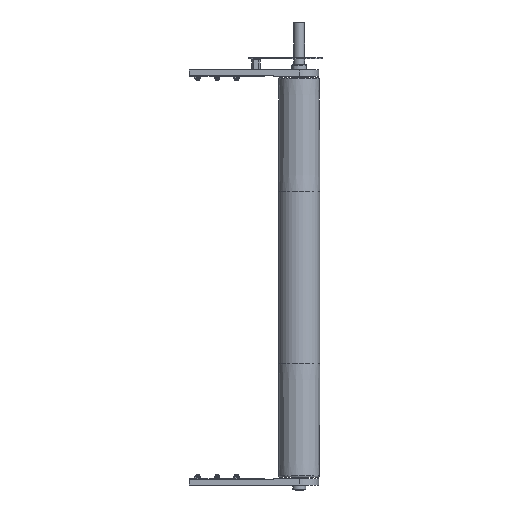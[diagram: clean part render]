
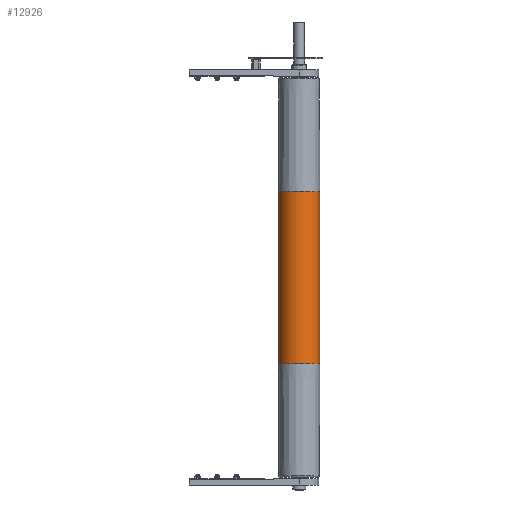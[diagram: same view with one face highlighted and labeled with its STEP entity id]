
A CAD part, front view. The second image highlights one B-rep face of the part: STEP entity #12926.
In plain terms, the highlighted cylindrical face has radius 47.5 mm (diameter 95 mm), a partial arc.
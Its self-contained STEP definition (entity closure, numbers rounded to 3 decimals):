
#3099 = VERTEX_POINT ( 'NONE', #6659 ) ;
#3102 = VERTEX_POINT ( 'NONE', #6719 ) ;
#3103 = VERTEX_POINT ( 'NONE', #6671 ) ;
#3125 = VERTEX_POINT ( 'NONE', #6604 ) ;
#5238 = DIRECTION ( 'NONE',  ( 1., 0., 0. ) ) ;
#5239 = DIRECTION ( 'NONE',  ( 0., 0., 1. ) ) ;
#5240 = CARTESIAN_POINT ( 'NONE',  ( 0., 0., -200. ) ) ;
#5245 = DIRECTION ( 'NONE',  ( 1., 0., 0. ) ) ;
#5246 = DIRECTION ( 'NONE',  ( 0., 0., 1. ) ) ;
#5247 = CARTESIAN_POINT ( 'NONE',  ( 0., 0., 200. ) ) ;
#5264 = DIRECTION ( 'NONE',  ( 0., 0., -1. ) ) ;
#5266 = CARTESIAN_POINT ( 'NONE',  ( -47.5, 0., 460. ) ) ;
#5273 = CARTESIAN_POINT ( 'NONE',  ( 47.5, 0., 460. ) ) ;
#5275 = DIRECTION ( 'NONE',  ( 0., 0., -1. ) ) ;
#6604 = CARTESIAN_POINT ( 'NONE',  ( 47.5, 0., -200. ) ) ;
#6659 = CARTESIAN_POINT ( 'NONE',  ( 47.5, 0., 200. ) ) ;
#6671 = CARTESIAN_POINT ( 'NONE',  ( -47.5, 0., -200. ) ) ;
#6719 = CARTESIAN_POINT ( 'NONE',  ( -47.5, 0., 200. ) ) ;
#8188 = EDGE_CURVE ( 'NONE', #3099, #3125, #19040, .T. ) ;
#8189 = EDGE_CURVE ( 'NONE', #3102, #3103, #19037, .T. ) ;
#8194 = EDGE_CURVE ( 'NONE', #3102, #3099, #19028, .T. ) ;
#8195 = EDGE_CURVE ( 'NONE', #3103, #3125, #19027, .T. ) ;
#8859 = CYLINDRICAL_SURFACE ( 'NONE', #17836, 47.5 ) ;
#8863 = FACE_OUTER_BOUND ( 'NONE', #15414, .T. ) ;
#10394 = CARTESIAN_POINT ( 'NONE',  ( 0., 0., 460. ) ) ;
#10398 = DIRECTION ( 'NONE',  ( 0., 0., -1. ) ) ;
#10401 = DIRECTION ( 'NONE',  ( -1., 0., 0. ) ) ;
#12926 = ADVANCED_FACE ( 'NONE', ( #8863 ), #8859, .T. ) ;
#14161 = ORIENTED_EDGE ( 'NONE', *, *, #8188, .F. ) ;
#14162 = ORIENTED_EDGE ( 'NONE', *, *, #8194, .F. ) ;
#14163 = ORIENTED_EDGE ( 'NONE', *, *, #8189, .T. ) ;
#14164 = ORIENTED_EDGE ( 'NONE', *, *, #8195, .T. ) ;
#15414 = EDGE_LOOP ( 'NONE', ( #14161, #14162, #14163, #14164 ) ) ;
#17374 = AXIS2_PLACEMENT_3D ( 'NONE', #5247, #5246, #5245 ) ;
#17375 = AXIS2_PLACEMENT_3D ( 'NONE', #5240, #5239, #5238 ) ;
#17836 = AXIS2_PLACEMENT_3D ( 'NONE', #10394, #10398, #10401 ) ;
#19027 = CIRCLE ( 'NONE', #17375, 47.5 ) ;
#19028 = CIRCLE ( 'NONE', #17374, 47.5 ) ;
#19034 = VECTOR ( 'NONE', #5264, 1000. ) ;
#19036 = VECTOR ( 'NONE', #5275, 1000. ) ;
#19037 = LINE ( 'NONE', #5266, #19034 ) ;
#19040 = LINE ( 'NONE', #5273, #19036 ) ;
